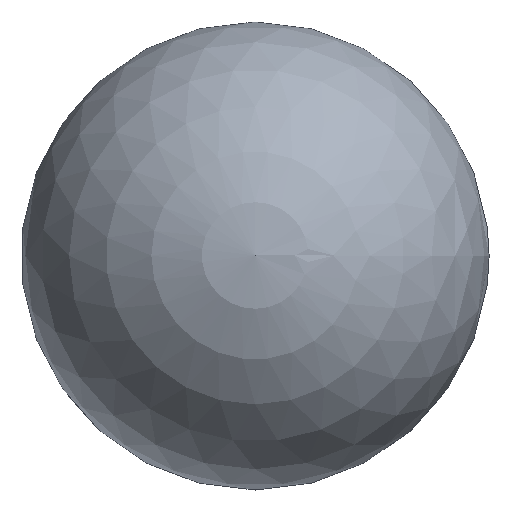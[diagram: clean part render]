
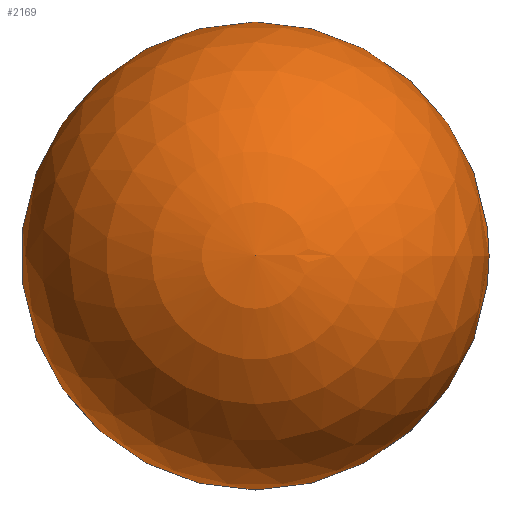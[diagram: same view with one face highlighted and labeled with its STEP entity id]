
A CAD part, top view. The second image highlights one B-rep face of the part: STEP entity #2169.
In plain terms, the highlighted spherical face has radius 150 mm.
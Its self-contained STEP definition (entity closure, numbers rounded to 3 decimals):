
#2169 = ADVANCED_FACE( '', ( #2806 ), #2807, .T. );
#2806 = FACE_OUTER_BOUND( '', #3307, .T. );
#2807 = SPHERICAL_SURFACE( '', #3308, 150. );
#3307 = EDGE_LOOP( '', ( #3954 ) );
#3308 = AXIS2_PLACEMENT_3D( '', #3955, #3956, #3957 );
#3954 = ORIENTED_EDGE( '', *, *, #6203, .T. );
#3955 = CARTESIAN_POINT( '', ( 0., 0., 145. ) );
#3956 = DIRECTION( '', ( 0., 0., -1. ) );
#3957 = DIRECTION( '', ( 1., 0., 0. ) );
#6203 = EDGE_CURVE( '', #6736, #6736, #6737, .T. );
#6736 = VERTEX_POINT( '', #7409 );
#6737 = CIRCLE( '', #7410, 56.25 );
#7409 = CARTESIAN_POINT( '', ( 56.25, 0., 5.946 ) );
#7410 = AXIS2_PLACEMENT_3D( '', #8339, #8340, #8341 );
#8339 = CARTESIAN_POINT( '', ( 0., 0., 5.946 ) );
#8340 = DIRECTION( '', ( 0., 0., 1. ) );
#8341 = DIRECTION( '', ( 1., 0., 0. ) );
